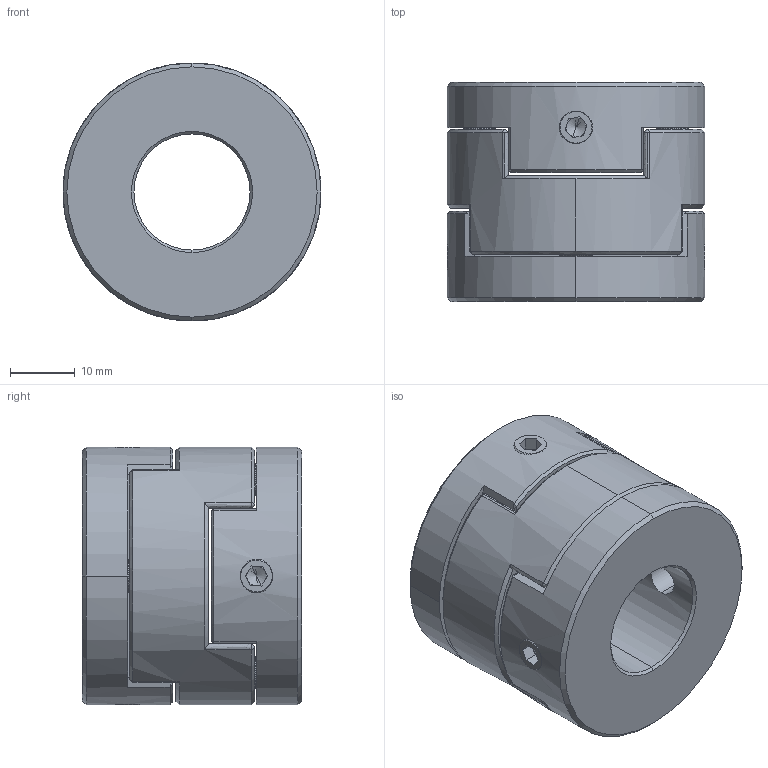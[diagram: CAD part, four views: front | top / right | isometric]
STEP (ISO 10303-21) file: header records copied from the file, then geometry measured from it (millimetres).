
FILE_DESCRIPTION (( 'STEP AP203' ), '1' );
FILE_NAME ('LZ-D-D40L35-18-19.STEP', '2021-10-30T05:25:06', ( '' ), ( '' ), 'SwSTEP 2.0', 'SolidWorks 2018', '' );
FILE_SCHEMA (( 'CONFIG_CONTROL_DESIGN' ));
Length unit declared in the file: millimetre
Products named in the file (1): LZ-D-D40L35-18-19
Bounding box: 40 x 34 x 40 mm (x, y, z)
Volume: 32036.9 mm3; surface area: 12218.6 mm2
Topology: 1 solids, 1 shells, 217 faces, 542 edges, 327 vertices
Faces by surface type: plane 88, bspline 55, cone 48, cylinder 26
Entity records: 7712 total; most frequent: CARTESIAN_POINT 2989, ORIENTED_EDGE 1068, DIRECTION 796, EDGE_CURVE 534, VERTEX_POINT 327, AXIS2_PLACEMENT_3D 289, EDGE_LOOP 243, LINE 218
